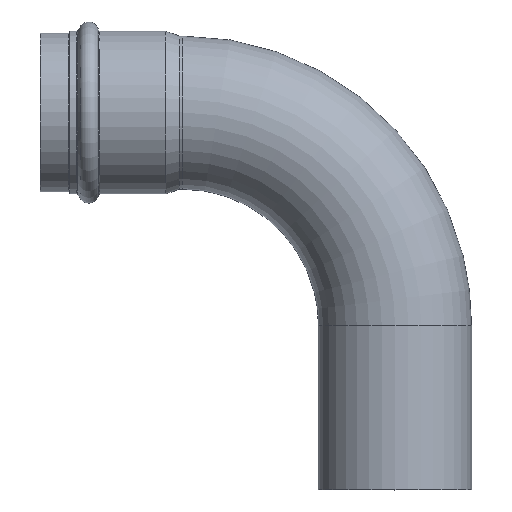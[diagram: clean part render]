
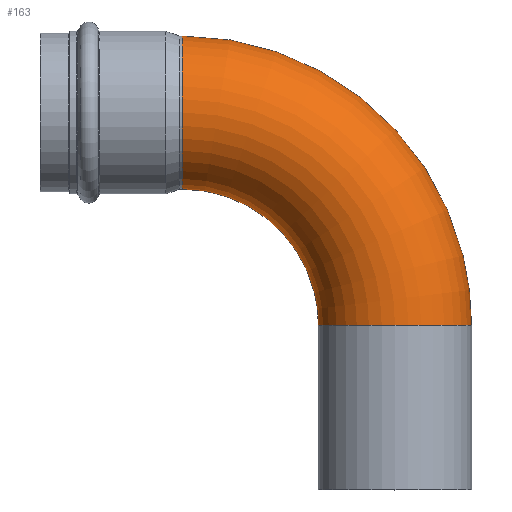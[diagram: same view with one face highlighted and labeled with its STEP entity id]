
A CAD part, top view. The second image highlights one B-rep face of the part: STEP entity #163.
In plain terms, the highlighted toroidal (fillet/blend) face has major radius 75 mm and minor radius 27 mm.
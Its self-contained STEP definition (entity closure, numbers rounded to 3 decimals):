
#132=CARTESIAN_POINT('',(75.,0.,-27.));
#133=VERTEX_POINT('',#132);
#134=CARTESIAN_POINT('',(75.,0.,0.0));
#135=DIRECTION('',(0.0,1.0,0.0));
#136=DIRECTION('',(0.0,0.0,1.0));
#137=AXIS2_PLACEMENT_3D('',#134,#135,#136);
#138=CIRCLE('',#137,27.);
#139=EDGE_CURVE('',#133,#133,#138,.T.);
#144=CARTESIAN_POINT('',(0.,0.,0.0));
#145=DIRECTION('',(0.0,0.0,-1.0));
#146=DIRECTION('',(-1.0,0.0,0.0));
#147=AXIS2_PLACEMENT_3D('',#144,#145,#146);
#148=TOROIDAL_SURFACE('',#147,75.0,27.);
#149=ORIENTED_EDGE('',*,*,#139,.T.);
#150=EDGE_LOOP('',(#149));
#151=FACE_OUTER_BOUND('',#150,.T.);
#152=CARTESIAN_POINT('',(0.,75.,-27.));
#153=VERTEX_POINT('',#152);
#154=CARTESIAN_POINT('',(0.,75.,0.0));
#155=DIRECTION('',(-1.0,0.0,0.0));
#156=DIRECTION('',(0.0,0.0,1.0));
#157=AXIS2_PLACEMENT_3D('',#154,#155,#156);
#158=CIRCLE('',#157,27.);
#159=EDGE_CURVE('',#153,#153,#158,.T.);
#160=ORIENTED_EDGE('',*,*,#159,.F.);
#161=EDGE_LOOP('',(#160));
#162=FACE_BOUND('',#161,.T.);
#163=ADVANCED_FACE('',(#151,#162),#148,.T.);
